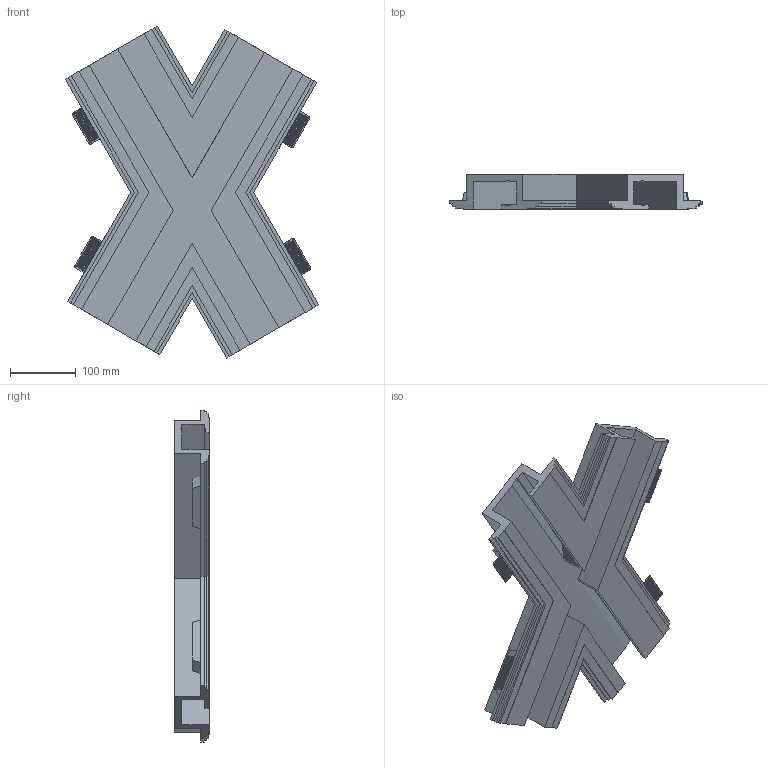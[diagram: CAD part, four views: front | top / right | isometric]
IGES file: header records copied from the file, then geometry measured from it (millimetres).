
Start section: SolidWorks IGES file using analytic representation for surfaces
Global section: file name: \\USINE\Dimitri\CATALOGUE SEDAP\Gamme Sedap\764 Cross 60\764 Cross 60.IGS; native system: SolidWorks 2015; preprocessor: SolidWorks 2015; author: Dimitri; date: 150116.165424; units: millimetre
Bounding box: 385.3 x 53 x 505.35 mm (x, y, z)
Surface area: 498192.3 mm2 (no closed solid volume)
Topology: 0 solids, 0 shells, 898 faces, 27072 edges, 27072 vertices
Faces by surface type: revolution 736, bspline 162
